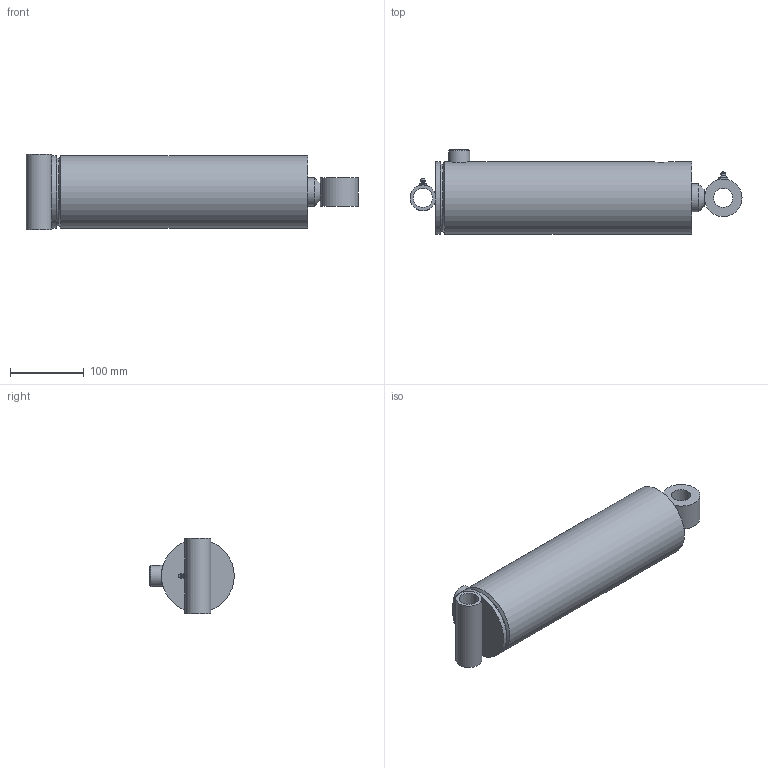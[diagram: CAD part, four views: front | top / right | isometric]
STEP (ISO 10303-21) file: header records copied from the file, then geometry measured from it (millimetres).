
FILE_DESCRIPTION((''),'2;1');
FILE_NAME('\\SRVR-ENG\EngSales\PMC-5508.stp','2012-09-27T07:38:23',('KneiflD'),(''),'Autodesk Inventor 2012','Autodesk Inventor 2012','');
FILE_SCHEMA(('AUTOMOTIVE_DESIGN { 1 0 10303 214 1 1 1 1 }'));
Length unit declared in the file: inch
Products named in the file (16): PMC-5508V; 061700023V; 051700038V; 161700005V; 200014404V; 210400024V; 020800257V; 010800788V; 210400528V; 071700016V; 081700326V; 220000210; 230001350V; 200018003V; 270010002V; 270010020V
Assembly tree (16 placements, depth 3):
  PMC-5508V
    061700023V
      051700038V
      161700005V
      200014404V
      210400024V
    020800257V
      010800788V
      210400528V
    071700016V
    081700326V
    220000210
    230001350V
    200018003V  x2
    270010002V
    270010020V
Bounding box: 449.26 x 114.3 x 101.6 mm (x, y, z)
Volume: 1491407.7 mm3; surface area: 382463.9 mm2
Topology: 14 solids, 14 shells, 206 faces, 423 edges, 257 vertices
Faces by surface type: plane 93, cylinder 52, cone 32, torus 23, bspline 4, sphere 2
Full cylindrical faces by diameter (mm): 1.524 x2, 3.175 x2, 5.486 x1, 6.074 x1, 8.839 x1, 9.08 x1, 12.7 x1, 17.463 x1, 17.475 x1, 23.444 x1, 23.813 x1, 25.349 x1, 25.476 x1, 25.908 x1, 26.162 x1, 27.965 x1, 28.575 x1, 34.925 x1, 38.1 x1, 38.176 x2, 41.91 x1, 46.025 x1, 47.625 x1, 50.8 x1, 53.975 x1, 69.342 x1, 79.451 x1, 80.061 x1, 80.264 x1, 84.125 x1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
Entity records: 5381 total; most frequent: CARTESIAN_POINT 1403, DIRECTION 802, ORIENTED_EDGE 538, AXIS2_PLACEMENT_3D 367, EDGE_LOOP 328, EDGE_CURVE 269, VERTEX_POINT 217, FACE_OUTER_BOUND 189
